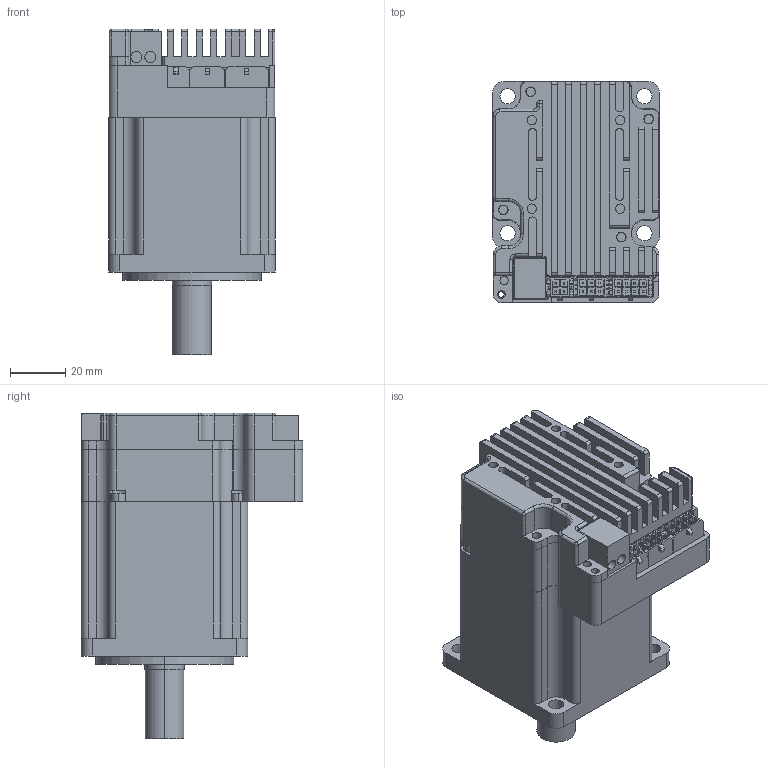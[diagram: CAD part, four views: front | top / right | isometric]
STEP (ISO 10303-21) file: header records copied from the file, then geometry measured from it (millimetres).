
FILE_DESCRIPTION (( 'STEP AP214' ), '1' );
FILE_NAME ('FCMT24P60200W.STEP', '2023-11-15T08:20:21', ( 'shaun' ), ( '' ), 'SwSTEP 2.0', 'SolidWorks 2020', '' );
FILE_SCHEMA (( 'AUTOMOTIVE_DESIGN' ));
Length unit declared in the file: millimetre
Products named in the file (3): 200W; FCMT24P60200W; WHOLE_CONTROLLER
Assembly tree (2 placements, depth 2):
  FCMT24P60200W
    200W
    WHOLE_CONTROLLER
Bounding box: 60.3 x 80.15 x 117.9 mm (x, y, z)
Volume: 256051.5 mm3; surface area: 110856.7 mm2
Topology: 291 solids, 291 shells, 3495 faces, 8287 edges, 5450 vertices
Faces by surface type: plane 1804, cylinder 1673, torus 7, sphere 5, cone 4, bspline 2
Entity records: 143441 total; most frequent: DIRECTION 18636, CARTESIAN_POINT 17308, ORIENTED_EDGE 16564, EDGE_CURVE 8282, AXIS2_PLACEMENT_3D 6866, VERTEX_POINT 5450, VECTOR 4904, LINE 4904
